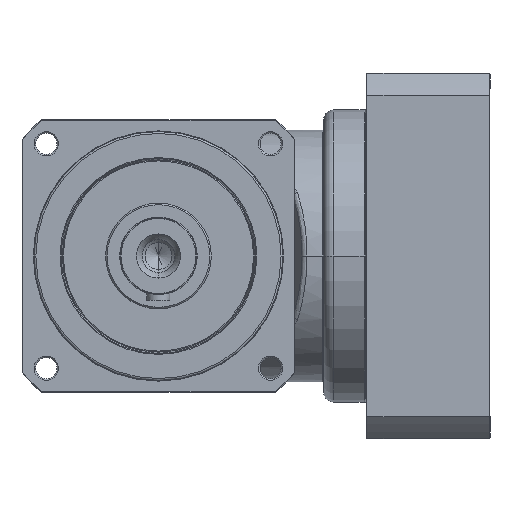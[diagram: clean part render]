
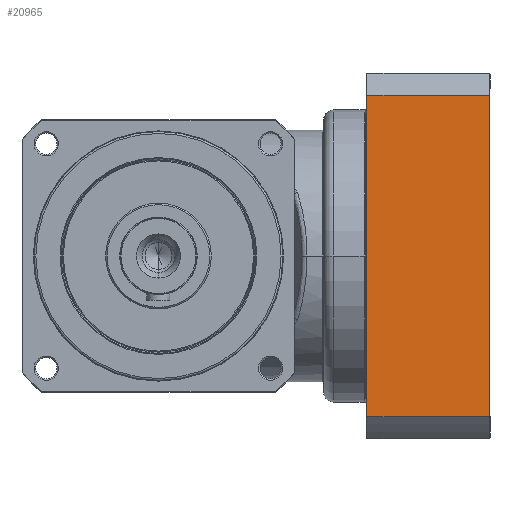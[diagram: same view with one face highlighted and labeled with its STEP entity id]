
A CAD part, left-side view. The second image highlights one B-rep face of the part: STEP entity #20965.
In plain terms, the highlighted planar face has unit normal (-1, 0, 0) as drawn and (0, -1, 0) by its records, which use the part's own axes.
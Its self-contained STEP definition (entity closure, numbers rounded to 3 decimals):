
#19817=DIRECTION('',(1.,0.,0.));
#19818=VECTOR('',#19817,167.06);
#19819=CARTESIAN_POINT('',(-83.53,-95.,
3.));
#19820=LINE('',#19819,#19818);
#19821=DIRECTION('',(0.,0.,1.));
#19822=VECTOR('',#19821,63.5);
#19823=CARTESIAN_POINT('',(-83.53,-95.,
3.));
#19824=LINE('',#19823,#19822);
#19825=DIRECTION('',(1.,0.,0.));
#19826=VECTOR('',#19825,167.06);
#19827=CARTESIAN_POINT('',(-83.53,-95.,
66.5));
#19828=LINE('',#19827,#19826);
#19829=DIRECTION('',(0.,0.,1.));
#19830=VECTOR('',#19829,63.5);
#19831=CARTESIAN_POINT('',(83.53,-95.,
3.));
#19832=LINE('',#19831,#19830);
#20530=CARTESIAN_POINT('',(-83.53,-95.,
66.5));
#20531=CARTESIAN_POINT('',(83.53,-95.,
66.5));
#20532=VERTEX_POINT('',#20530);
#20533=VERTEX_POINT('',#20531);
#20567=CARTESIAN_POINT('',(-83.53,-95.,3.));
#20569=VERTEX_POINT('',#20567);
#20572=CARTESIAN_POINT('',(83.53,-95.,
3.));
#20573=VERTEX_POINT('',#20572);
#20951=CARTESIAN_POINT('',(-95.,-95.,0.));
#20952=DIRECTION('',(0.,-1.,0.));
#20953=DIRECTION('',(1.,0.,0.));
#20954=AXIS2_PLACEMENT_3D('',#20951,#20952,#20953);
#20955=PLANE('',#20954);
#20956=ORIENTED_EDGE('',*,*,#20945,.F.);
#20958=ORIENTED_EDGE('',*,*,#20957,.T.);
#20960=ORIENTED_EDGE('',*,*,#20959,.T.);
#20962=ORIENTED_EDGE('',*,*,#20961,.F.);
#20963=EDGE_LOOP('',(#20956,#20958,#20960,#20962));
#20964=FACE_OUTER_BOUND('',#20963,.F.);
#20965=ADVANCED_FACE('',(#20964),#20955,.T.);
#20945=EDGE_CURVE('',#20569,#20573,#19820,.T.);
#20957=EDGE_CURVE('',#20569,#20532,#19824,.T.);
#20959=EDGE_CURVE('',#20532,#20533,#19828,.T.);
#20961=EDGE_CURVE('',#20573,#20533,#19832,.T.);
